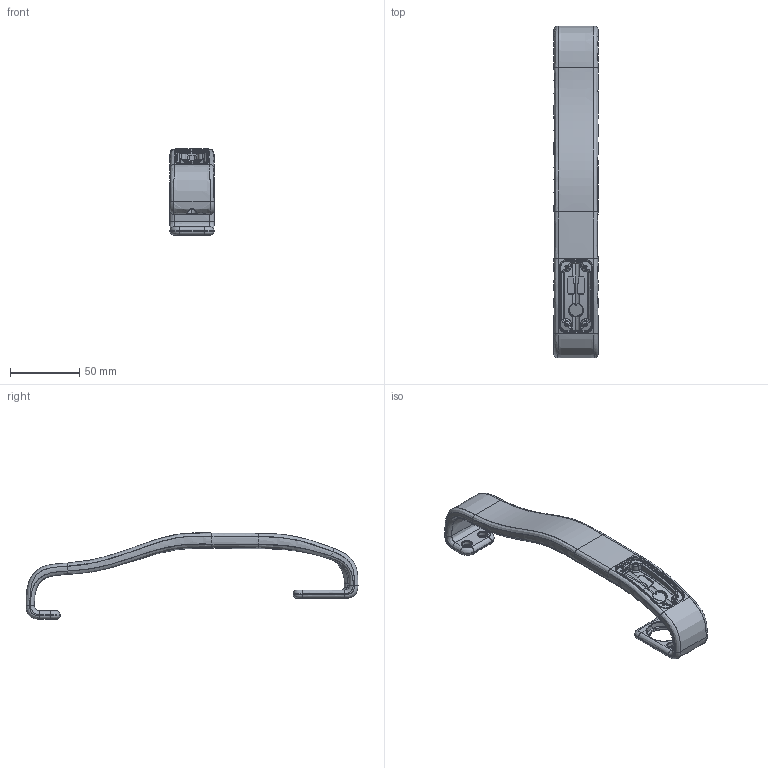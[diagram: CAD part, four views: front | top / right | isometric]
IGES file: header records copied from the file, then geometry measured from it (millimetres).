
Start section: Speaker 2 inch..SLDPRT - PrototypeComponentType Speaker 2 inch..SLDPRT - PrototypeComponentType Speaker 2 inch..SLDPRT - PrototypeComponentType Speaker 2 inch..SLDPRT - PrototypeComponentType 10 rocker-switch-KCD1..SLDPRT - PrototypeComponentType 10 rocker-switch-KCD1..SLDPRT - PrototypeComponentType 10 rocker-switch-KCD1..SLDPRT - PrototypeComponentType 10 rocker-switch-KCD1..SLDPRT - PrototypeCo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
Global section: file name: C:\Users\Victor\Desktop\Asa.igs; native system: Rhinoceros ( Feb 27 2019 ); preprocessor: Trout Lake IGES 012 Feb 27 2019; date: 240310.230401; units: millimetre
Bounding box: 31.77 x 238.94 x 62.19 mm (x, y, z)
Surface area: 27187.2 mm2 (no closed solid volume)
Topology: 0 solids, 0 shells, 370 faces, 3227 edges, 3227 vertices
Faces by surface type: bspline 370
